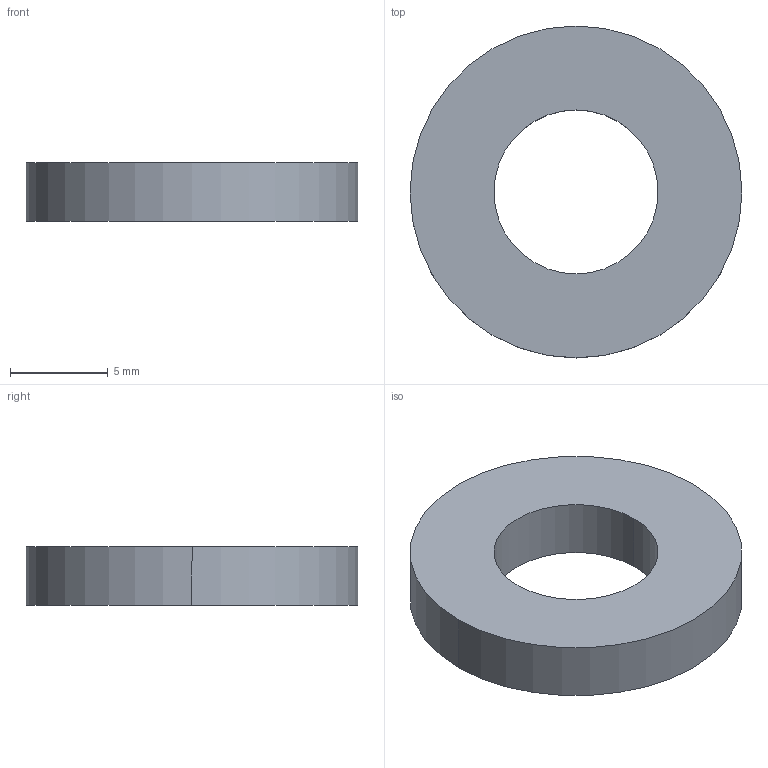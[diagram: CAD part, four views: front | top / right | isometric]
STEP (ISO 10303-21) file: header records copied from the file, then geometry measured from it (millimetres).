
FILE_DESCRIPTION(('CATIA V5 STEP Exchange','CAx-IF Rec.Pracs.--- Model Styling and Organization---1.5--- 2016-08-15','CAx-IF Rec.Pracs.---Supplemental Geometry---1.0---2011-11-01','CAx-IF Rec.Pracs.--- Composite Materials ---1.1---2010-07-15','CAx-IF Rec.Pracs.---External References---2.1---2005-01-19'),'2;1');
FILE_NAME('E:\WAT\Sprezarka\121_00_00_Tlocznik1\Tlocznik1_KPL\Tlocznik1_stp\244_10_084_17_03.stp','2023-08-01T08:49:44+00:00',('none'),('none'),'CATIA Version 5-6 Release 2022 SP3','CATIA V5 STEP AP214 v2','none');
FILE_SCHEMA(('AUTOMOTIVE_DESIGN { 1 0 10303 214 1 1 1 1 }'));
Length unit declared in the file: millimetre
Products named in the file (1): 244_10_084_17_03
Bounding box: 17 x 17 x 3 mm (x, y, z)
Volume: 514.7 mm3; surface area: 582.5 mm2
Topology: 1 solids, 1 shells, 6 faces, 12 edges, 8 vertices
Faces by surface type: cylinder 4, plane 2
Entity records: 181 total; most frequent: CARTESIAN_POINT 27, DIRECTION 24, ORIENTED_EDGE 24, AXIS2_PLACEMENT_3D 15, EDGE_CURVE 12, CIRCLE 8, EDGE_LOOP 8, VERTEX_POINT 8
